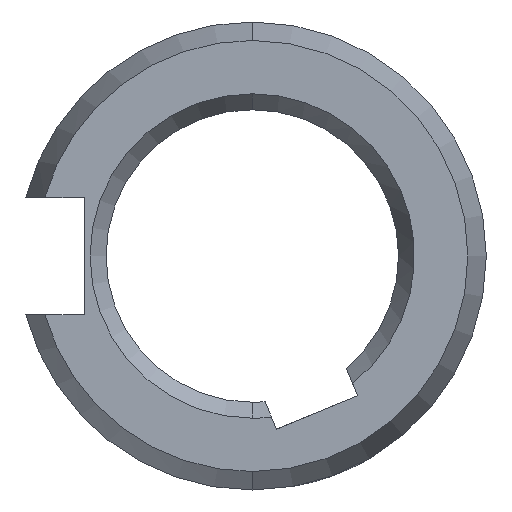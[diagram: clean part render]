
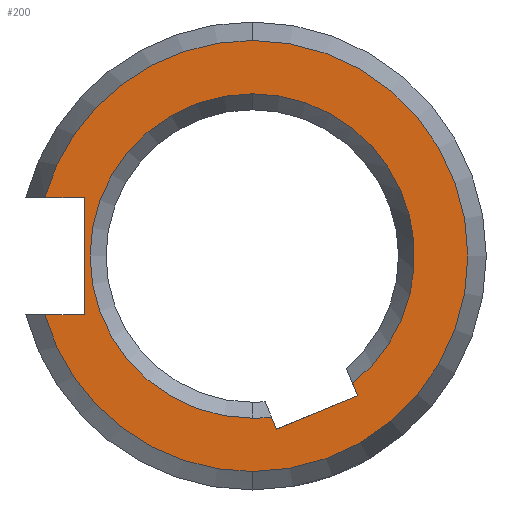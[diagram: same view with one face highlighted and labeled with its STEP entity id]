
A CAD part, left-side view. The second image highlights one B-rep face of the part: STEP entity #200.
In plain terms, the highlighted planar face has unit normal (-1, 0, 0).
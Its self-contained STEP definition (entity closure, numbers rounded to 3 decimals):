
#1 = CARTESIAN_POINT ( 'NONE',  ( -20.5, 11.261, -3.175 ) ) ;
#2 = CARTESIAN_POINT ( 'NONE',  ( -20.5, -1.318, -9.404 ) ) ;
#8 = CARTESIAN_POINT ( 'NONE',  ( -20.5, -5.443, -6.919 ) ) ;
#9 = CARTESIAN_POINT ( 'NONE',  ( -20.5, 9.12, -3.175 ) ) ;
#11 = CARTESIAN_POINT ( 'NONE',  ( -20.5, -5.718, -7.581 ) ) ;
#60 = VERTEX_POINT ( 'NONE', #8 ) ;
#61 = VERTEX_POINT ( 'NONE', #9 ) ;
#65 = VERTEX_POINT ( 'NONE', #2 ) ;
#113 = FACE_OUTER_BOUND ( 'NONE', #339, .T. ) ;
#120 = FACE_BOUND ( 'NONE', #322, .T. ) ;
#124 = VERTEX_POINT ( 'NONE', #11 ) ;
#125 = VERTEX_POINT ( 'NONE', #1 ) ;
#126 = CARTESIAN_POINT ( 'NONE',  ( -20.5, 9.12, -3.175 ) ) ;
#141 = DIRECTION ( 'NONE',  ( 1., 0., 0. ) ) ;
#142 = DIRECTION ( 'NONE',  ( 0., 0., -1. ) ) ;
#146 = PLANE ( 'NONE',  #667 ) ;
#148 = CARTESIAN_POINT ( 'NONE',  ( -20.5, 0., 0. ) ) ;
#200 = ADVANCED_FACE ( 'NONE', ( #113, #120 ), #146, .F. ) ;
#253 = DIRECTION ( 'NONE',  ( 1., 0., 0. ) ) ;
#265 = DIRECTION ( 'NONE',  ( 0., 0., -1. ) ) ;
#266 = CARTESIAN_POINT ( 'NONE',  ( -20.5, 0., 0. ) ) ;
#267 = CARTESIAN_POINT ( 'NONE',  ( -20.5, -1.318, -9.404 ) ) ;
#268 = CIRCLE ( 'NONE', #677, 8.804 ) ;
#282 = EDGE_CURVE ( 'NONE', #323, #531, #268, .T. ) ;
#289 = EDGE_CURVE ( 'NONE', #125, #61, #320, .T. ) ;
#290 = EDGE_CURVE ( 'NONE', #529, #323, #307, .T. ) ;
#291 = EDGE_CURVE ( 'NONE', #125, #357, #304, .T. ) ;
#292 = EDGE_CURVE ( 'NONE', #533, #375, #988, .T. ) ;
#293 = EDGE_CURVE ( 'NONE', #61, #533, #991, .T. ) ;
#294 = EDGE_CURVE ( 'NONE', #529, #65, #994, .T. ) ;
#295 = EDGE_CURVE ( 'NONE', #531, #60, #993, .T. ) ;
#296 = EDGE_CURVE ( 'NONE', #124, #60, #996, .T. ) ;
#297 = EDGE_CURVE ( 'NONE', #65, #124, #990, .T. ) ;
#304 = CIRCLE ( 'NONE', #681, 11.7 ) ;
#307 = CIRCLE ( 'NONE', #680, 8.804 ) ;
#320 = LINE ( 'NONE', #126, #540 ) ;
#322 = EDGE_LOOP ( 'NONE', ( #439, #440, #441, #442, #443, #444 ) ) ;
#323 = VERTEX_POINT ( 'NONE', #733 ) ;
#339 = EDGE_LOOP ( 'NONE', ( #433, #434, #435, #436, #437, #438 ) ) ;
#357 = VERTEX_POINT ( 'NONE', #745 ) ;
#367 = VERTEX_POINT ( 'NONE', #753 ) ;
#375 = VERTEX_POINT ( 'NONE', #761 ) ;
#433 = ORIENTED_EDGE ( 'NONE', *, *, #289, .F. ) ;
#434 = ORIENTED_EDGE ( 'NONE', *, *, #291, .T. ) ;
#435 = ORIENTED_EDGE ( 'NONE', *, *, #630, .T. ) ;
#436 = ORIENTED_EDGE ( 'NONE', *, *, #634, .T. ) ;
#437 = ORIENTED_EDGE ( 'NONE', *, *, #292, .F. ) ;
#438 = ORIENTED_EDGE ( 'NONE', *, *, #293, .F. ) ;
#439 = ORIENTED_EDGE ( 'NONE', *, *, #294, .F. ) ;
#440 = ORIENTED_EDGE ( 'NONE', *, *, #290, .T. ) ;
#441 = ORIENTED_EDGE ( 'NONE', *, *, #282, .T. ) ;
#442 = ORIENTED_EDGE ( 'NONE', *, *, #295, .T. ) ;
#443 = ORIENTED_EDGE ( 'NONE', *, *, #296, .F. ) ;
#444 = ORIENTED_EDGE ( 'NONE', *, *, #297, .F. ) ;
#529 = VERTEX_POINT ( 'NONE', #774 ) ;
#531 = VERTEX_POINT ( 'NONE', #770 ) ;
#533 = VERTEX_POINT ( 'NONE', #771 ) ;
#540 = VECTOR ( 'NONE', #713, 1000. ) ;
#630 = EDGE_CURVE ( 'NONE', #357, #367, #1039, .T. ) ;
#634 = EDGE_CURVE ( 'NONE', #367, #375, #1041, .T. ) ;
#667 = AXIS2_PLACEMENT_3D ( 'NONE', #148, #141, #142 ) ;
#677 = AXIS2_PLACEMENT_3D ( 'NONE', #266, #253, #265 ) ;
#680 = AXIS2_PLACEMENT_3D ( 'NONE', #715, #716, #717 ) ;
#681 = AXIS2_PLACEMENT_3D ( 'NONE', #720, #721, #722 ) ;
#682 = AXIS2_PLACEMENT_3D ( 'NONE', #728, #729, #730 ) ;
#697 = AXIS2_PLACEMENT_3D ( 'NONE', #872, #873, #874 ) ;
#699 = AXIS2_PLACEMENT_3D ( 'NONE', #883, #884, #885 ) ;
#713 = DIRECTION ( 'NONE',  ( 0., -1., 0. ) ) ;
#714 = DIRECTION ( 'NONE',  ( 0., 1., 0. ) ) ;
#715 = CARTESIAN_POINT ( 'NONE',  ( -20.5, 0., 0. ) ) ;
#716 = DIRECTION ( 'NONE',  ( 1., 0., 0. ) ) ;
#717 = DIRECTION ( 'NONE',  ( 0., 0., -1. ) ) ;
#718 = CARTESIAN_POINT ( 'NONE',  ( -20.5, 9.12, -3.175 ) ) ;
#719 = CARTESIAN_POINT ( 'NONE',  ( -20.5, 9.12, 3.175 ) ) ;
#720 = CARTESIAN_POINT ( 'NONE',  ( -20.5, 0., 0. ) ) ;
#721 = DIRECTION ( 'NONE',  ( -1., 0., 0. ) ) ;
#722 = DIRECTION ( 'NONE',  ( 0., 0., -1. ) ) ;
#723 = DIRECTION ( 'NONE',  ( 0., 0.383, 0.924 ) ) ;
#724 = DIRECTION ( 'NONE',  ( 0., 0., 1. ) ) ;
#725 = CARTESIAN_POINT ( 'NONE',  ( -20.5, -5.718, -7.581 ) ) ;
#726 = DIRECTION ( 'NONE',  ( 0., -0.383, -0.924 ) ) ;
#727 = CARTESIAN_POINT ( 'NONE',  ( -20.5, -1.318, -9.404 ) ) ;
#728 = CARTESIAN_POINT ( 'NONE',  ( -20.5, 0., 0. ) ) ;
#729 = DIRECTION ( 'NONE',  ( 1., 0., 0. ) ) ;
#730 = DIRECTION ( 'NONE',  ( 0., 0., -1. ) ) ;
#731 = DIRECTION ( 'NONE',  ( 0., -0.924, 0.383 ) ) ;
#733 = CARTESIAN_POINT ( 'NONE',  ( -20.5, 0., -8.804 ) ) ;
#745 = CARTESIAN_POINT ( 'NONE',  ( -20.5, 0., -11.7 ) ) ;
#753 = CARTESIAN_POINT ( 'NONE',  ( -20.5, 0., 11.7 ) ) ;
#761 = CARTESIAN_POINT ( 'NONE',  ( -20.5, 11.261, 3.175 ) ) ;
#770 = CARTESIAN_POINT ( 'NONE',  ( -20.5, 0., 8.804 ) ) ;
#771 = CARTESIAN_POINT ( 'NONE',  ( -20.5, 9.12, 3.175 ) ) ;
#774 = CARTESIAN_POINT ( 'NONE',  ( -20.5, -1.043, -8.741 ) ) ;
#872 = CARTESIAN_POINT ( 'NONE',  ( -20.5, 0., 0. ) ) ;
#873 = DIRECTION ( 'NONE',  ( -1., 0., 0. ) ) ;
#874 = DIRECTION ( 'NONE',  ( 0., 0., -1. ) ) ;
#883 = CARTESIAN_POINT ( 'NONE',  ( -20.5, 0., 0. ) ) ;
#884 = DIRECTION ( 'NONE',  ( -1., 0., 0. ) ) ;
#885 = DIRECTION ( 'NONE',  ( 0., 0., -1. ) ) ;
#988 = LINE ( 'NONE', #719, #989 ) ;
#989 = VECTOR ( 'NONE', #714, 1000. ) ;
#990 = LINE ( 'NONE', #727, #1000 ) ;
#991 = LINE ( 'NONE', #718, #992 ) ;
#992 = VECTOR ( 'NONE', #724, 1000. ) ;
#993 = CIRCLE ( 'NONE', #682, 8.804 ) ;
#994 = LINE ( 'NONE', #267, #995 ) ;
#995 = VECTOR ( 'NONE', #726, 1000. ) ;
#996 = LINE ( 'NONE', #725, #998 ) ;
#998 = VECTOR ( 'NONE', #723, 1000. ) ;
#1000 = VECTOR ( 'NONE', #731, 1000. ) ;
#1039 = CIRCLE ( 'NONE', #697, 11.7 ) ;
#1041 = CIRCLE ( 'NONE', #699, 11.7 ) ;
